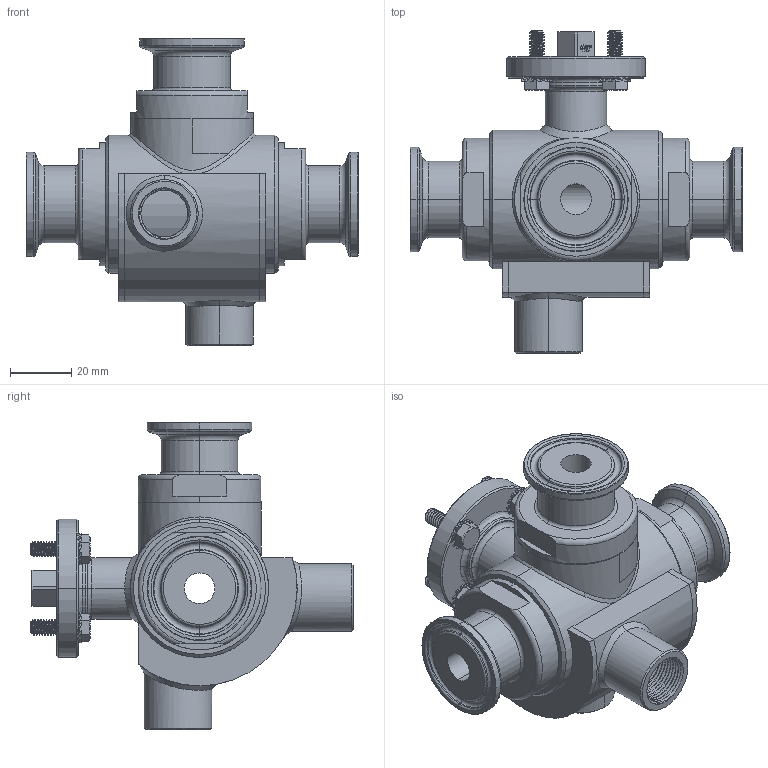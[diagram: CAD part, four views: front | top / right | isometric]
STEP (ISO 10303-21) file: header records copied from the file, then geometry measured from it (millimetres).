
FILE_DESCRIPTION((''),'2;1');
FILE_NAME('303030C61410_SW0001','2025-01-31T13:39:40',('tecnico2'),('CDM Tecnoconsulting'),'CREO PARAMETRIC BY PTC INC, 2024063','CREO PARAMETRIC BY PTC INC, 2024063','');
FILE_SCHEMA(('CONFIG_CONTROL_DESIGN','SHAPE_APPEARANCE_LAYERS_GROUPS'));
Products named in the file (1): 303030C61410_SW0001
Bounding box: 108 x 104.9 x 100 mm (x, y, z)
Volume: 166841.6 mm3; surface area: 66344.6 mm2
Topology: 1 solids, 3 shells, 1749 faces, 4965 edges, 3187 vertices
Faces by surface type: plane 656, cylinder 445, cone 214, extrusion 167, torus 138, bspline 127, sphere 2
Entity records: 130426 total; most frequent: CARTESIAN_POINT 70735, ORIENTED_EDGE 9906, DIRECTION 7474, PRESENTATION_STYLE_ASSIGNMENT 5276, STYLED_ITEM 5012, CURVE_STYLE 5009, EDGE_CURVE 4953, VERTEX_POINT 3187
